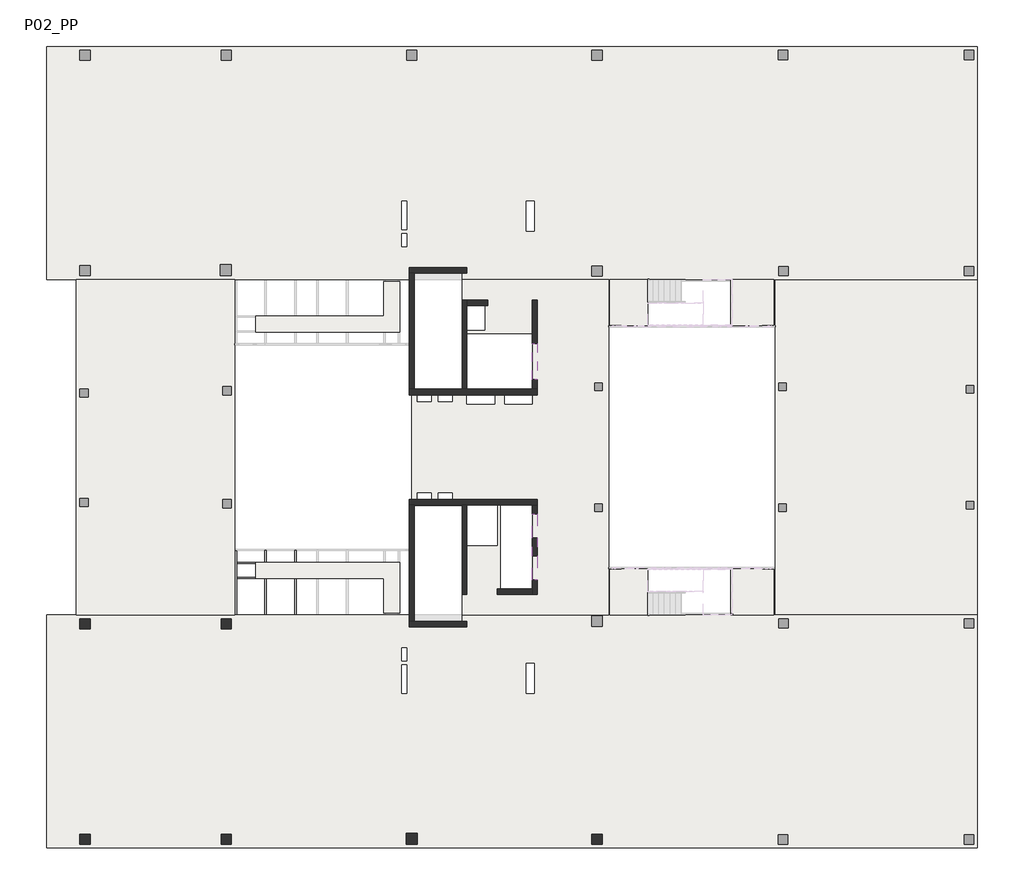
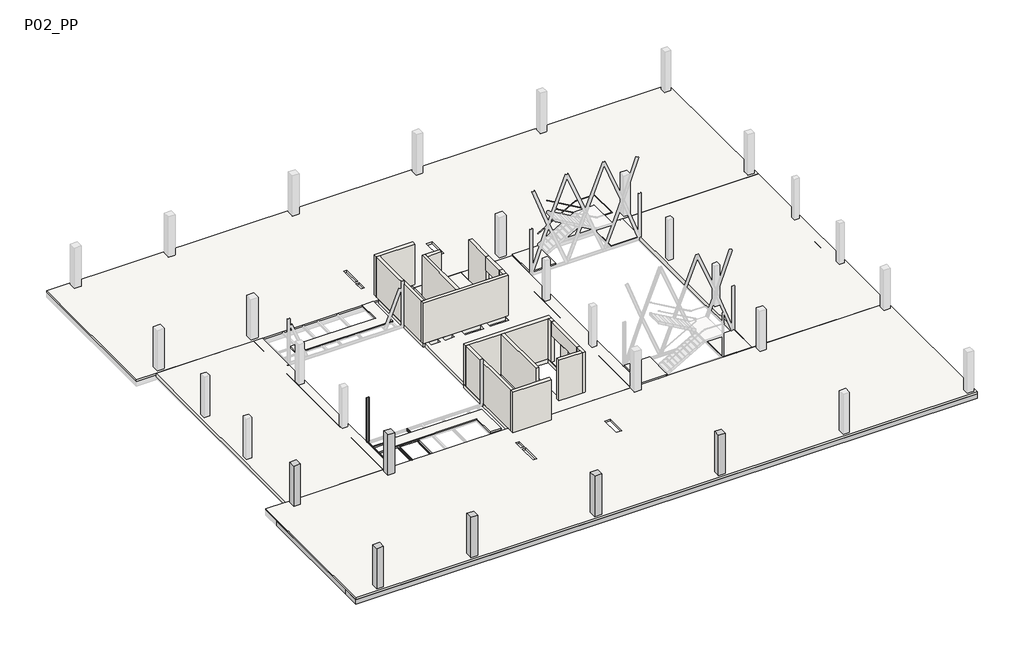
# One storey, part 1 of 7: 19 beams, 17 walls, 9 slabs, 7 columns.
"""IFC4 building model written with IfcOpenShell, lengths in millimetres."""

from ifc_helpers import new_model, si_unit, frame, origin, place, context, project, spatial, polyline, outline, extrude, faceted_brep, transform, mapped, element, save
from components import ub_universal_beams_ipe_160x82_5295c27c, ub_universal_beams_ipe_160x82_633517aa, upn120x55_2e91fe93, upn120x55_d7d90911, upn_200x75_f929c6c0

model = new_model("IFC4")

# Units and contexts
model_context = context("Model", 3, world=origin())
ifc_project = project(units=[si_unit("LENGTHUNIT", "METRE", prefix="MILLI")], contexts=[model_context])

# Site, building, storey
site = spatial("IfcSite", under=ifc_project)
building = spatial("IfcBuilding", under=site)
storey = spatial("IfcBuildingStorey", under=building, Name="P02_PP", Elevation=14910.0)

# Beams
placement = place(None, origin())
element("IfcBeam", 1, ObjectType="M_Concrete-Rectangular Beam : 1500 x 550mm", at=placement, inside=storey, context=model_context, shape_type="Brep", body=[
    faceted_brep([(-33190.2931093, -17110.5871866, 14360.0), (16958.7687297, -17110.5871866, 14360.0), (16958.7687297, -17110.5871866, 14760.0), (-33190.2931093, -17110.5871866, 14760.0), (-33190.2931093, -15610.5871866, 14360.0), (-32490.2931093, -15610.5871866, 14360.0), (-31216.2708024, -15610.5871866, 14360.0), (-30816.2708024, -15610.5871866, 14360.0), (-29549.6041367, -15610.5871866, 14360.0), (-29149.6041367, -15610.5871866, 14360.0), (-27882.9374731, -15610.5871866, 14360.0), (-27482.9374731, -15610.5871866, 14360.0), (-26216.2708089, -15610.5871866, 14360.0), (-25816.2708089, -15610.5871866, 14360.0), (-24549.6041453, -15610.5871866, 14360.0), (-24149.6041453, -15610.5871866, 14360.0), (-22882.9374805, -15610.5871866, 14360.0), (-22482.9374805, -15610.5871866, 14360.0), (-21216.2708168, -15610.5871866, 14360.0), (-20816.2708168, -15610.5871866, 14360.0), (-19549.6041539, -15610.5871866, 14360.0), (-19149.6041539, -15610.5871866, 14360.0), (-17882.9374898, -15610.5871866, 14360.0), (-17482.9374898, -15610.5871866, 14360.0), (-16216.2708252, -15610.5871866, 14360.0), (-15816.2708252, -15610.5871866, 14360.0), (-14549.604161, -15610.5871866, 14360.0), (-14149.604161, -15610.5871866, 14360.0), (-12882.9374977, -15610.5871866, 14360.0), (-12482.9374977, -15610.5871866, 14360.0), (-11216.2708336, -15610.5871866, 14360.0), (-10816.2708336, -15610.5871866, 14360.0), (-9549.6041702, -15610.5871866, 14360.0), (-9149.6041702, -15610.5871866, 14360.0), (-7882.9375051, -15610.5871866, 14360.0), (-7482.9375051, -15610.5871866, 14360.0), (-6216.2708415, -15610.5871866, 14360.0), (-5816.2708415, -15610.5871866, 14360.0), (-4549.6041777, -15610.5871866, 14360.0), (-4149.6041777, -15610.5871866, 14360.0), (-2882.9375136, -15610.5871866, 14360.0), (-2482.9375136, -15610.5871866, 14360.0), (-1216.2708502, -15610.5871866, 14360.0), (-816.2708502, -15610.5871866, 14360.0), (450.3958139, -15610.5871866, 14360.0), (850.3958139, -15610.5871866, 14360.0), (2117.0624776, -15610.5871866, 14360.0), (2517.0624776, -15610.5871866, 14360.0), (3783.7291418, -15610.5871866, 14360.0), (4183.7291418, -15610.5871866, 14360.0), (5450.3958055, -15610.5871866, 14360.0), (5850.3958055, -15610.5871866, 14360.0), (7117.0624701, -15610.5871866, 14360.0), (7517.0624701, -15610.5871866, 14360.0), (8783.7291339, -15610.5871866, 14360.0), (9183.7291339, -15610.5871866, 14360.0), (10450.3957976, -15610.5871866, 14360.0), (10850.3957976, -15610.5871866, 14360.0), (12117.0624618, -15610.5871866, 14360.0), (12517.0624618, -15610.5871866, 14360.0), (13783.7291255, -15610.5871866, 14360.0), (14183.7291255, -15610.5871866, 14360.0), (15458.7687297, -15610.5871866, 14360.0), (16958.7687297, -15610.5871866, 14360.0), (6759.6784212, -16910.58666, 14360.0), (6759.6784217, -16360.58666, 14360.0), (6209.6784217, -16360.5866595, 14360.0), (6209.6784212, -16910.5866595, 14360.0), (-3266.6368922, -16910.5866626, 14360.0), (-3266.6368921, -16310.5866626, 14360.0), (-3866.6368921, -16310.5866625, 14360.0), (-3866.6368922, -16910.5866625, 14360.0), (-13216.1844603, -16910.5866726, 14360.0), (-13216.1844595, -16310.5866726, 14360.0), (-13816.1844595, -16310.5866718, 14360.0), (-13816.1844603, -16910.5866718, 14360.0), (-23241.0442946, -16910.586383, 14360.0), (-23241.0442945, -16310.586383, 14360.0), (-23841.0442945, -16310.5863829, 14360.0), (-23841.0442946, -16910.5863829, 14360.0), (-30791.1796641, -16910.5871989, 14360.0), (-30791.1796617, -16310.5871989, 14360.0), (-31391.1796617, -16310.5871965, 14360.0), (-31391.1796641, -16910.5871965, 14360.0), (16758.7685866, -16910.5866546, 14360.0), (16758.7685867, -16360.5866546, 14360.0), (16208.7685867, -16360.5866545, 14360.0), (16208.7685866, -16910.5866545, 14360.0), (-33190.2931093, -15610.5871866, 14760.0), (-32490.2931093, -15610.5871866, 14760.0), (-31216.2708024, -15610.5871866, 14760.0), (-30816.2708024, -15610.5871866, 14760.0), (-29549.6041367, -15610.5871866, 14760.0), (-29149.6041367, -15610.5871866, 14760.0), (-27882.9374731, -15610.5871866, 14760.0), (-27482.9374731, -15610.5871866, 14760.0), (-26216.2708089, -15610.5871866, 14760.0), (-25816.2708089, -15610.5871866, 14760.0), (-24549.6041453, -15610.5871866, 14760.0), (-24149.6041453, -15610.5871866, 14760.0), (-22882.9374805, -15610.5871866, 14760.0), (-22482.9374805, -15610.5871866, 14760.0), (-21216.2708168, -15610.5871866, 14760.0), (-20816.2708168, -15610.5871866, 14760.0), (-19549.6041539, -15610.5871866, 14760.0), (-19149.6041539, -15610.5871866, 14760.0), (-17882.9374898, -15610.5871866, 14760.0), (-17482.9374898, -15610.5871866, 14760.0), (-16216.2708252, -15610.5871866, 14760.0), (-15816.2708252, -15610.5871866, 14760.0), (-14549.604161, -15610.5871866, 14760.0), (-14149.604161, -15610.5871866, 14760.0), (-12882.9374977, -15610.5871866, 14760.0), (-12482.9374977, -15610.5871866, 14760.0), (-11216.2708336, -15610.5871866, 14760.0), (-10816.2708336, -15610.5871866, 14760.0), (-9549.6041702, -15610.5871866, 14760.0), (-9149.6041702, -15610.5871866, 14760.0), (-7882.9375051, -15610.5871866, 14760.0), (-7482.9375051, -15610.5871866, 14760.0), (-6216.2708415, -15610.5871866, 14760.0), (-5816.2708415, -15610.5871866, 14760.0), (-4549.6041777, -15610.5871866, 14760.0), (-4149.6041777, -15610.5871866, 14760.0), (-2882.9375136, -15610.5871866, 14760.0), (-2482.9375136, -15610.5871866, 14760.0), (-1216.2708502, -15610.5871866, 14760.0), (-816.2708502, -15610.5871866, 14760.0), (450.3958139, -15610.5871866, 14760.0), (850.3958139, -15610.5871866, 14760.0), (2117.0624776, -15610.5871866, 14760.0), (2517.0624776, -15610.5871866, 14760.0), (3783.7291418, -15610.5871866, 14760.0), (4183.7291418, -15610.5871866, 14760.0), (5450.3958055, -15610.5871866, 14760.0), (5850.3958055, -15610.5871866, 14760.0), (7117.0624701, -15610.5871866, 14760.0), (7517.0624701, -15610.5871866, 14760.0), (8783.7291339, -15610.5871866, 14760.0), (9183.7291339, -15610.5871866, 14760.0), (10450.3957976, -15610.5871866, 14760.0), (10850.3957976, -15610.5871866, 14760.0), (12117.0624618, -15610.5871866, 14760.0), (12517.0624618, -15610.5871866, 14760.0), (13783.7291255, -15610.5871866, 14760.0), (14183.7291255, -15610.5871866, 14760.0), (15458.7687297, -15610.5871866, 14760.0), (16958.7687297, -15610.5871866, 14760.0), (6759.6784212, -16910.58666, 14610.0), (6759.6784217, -16360.58666, 14610.0), (6209.6784212, -16910.5866595, 14610.0), (6209.6784217, -16360.5866595, 14610.0), (-3266.6368922, -16910.5866626, 14610.0), (-3266.6368921, -16310.5866626, 14610.0), (-3866.6368922, -16910.5866625, 14610.0), (-3866.6368921, -16310.5866625, 14610.0), (-13216.1844603, -16910.5866726, 14610.0), (-13216.1844595, -16310.5866726, 14610.0), (-13816.1844603, -16910.5866718, 14610.0), (-13816.1844595, -16310.5866718, 14610.0), (-23241.0442946, -16910.586383, 14610.0), (-23241.0442945, -16310.586383, 14610.0), (-23841.0442946, -16910.5863829, 14610.0), (-23841.0442945, -16310.5863829, 14610.0), (-30791.1796641, -16910.5871989, 14610.0), (-30791.1796617, -16310.5871989, 14610.0), (-31391.1796641, -16910.5871965, 14610.0), (-31391.1796617, -16310.5871965, 14610.0), (16758.7685866, -16910.5866546, 14610.0), (16758.7685867, -16360.5866546, 14610.0), (16208.7685866, -16910.5866545, 14610.0), (16208.7685867, -16360.5866545, 14610.0)], [[[0, 1, 2, 3]], [[0, 4, 5, 6, 7, 8, 9, 10, 11, 12, 13, 14, 15, 16, 17, 18, 19, 20, 21, 22, 23, 24, 25, 26, 27, 28, 29, 30, 31, 32, 33, 34, 35, 36, 37, 38, 39, 40, 41, 42, 43, 44, 45, 46, 47, 48, 49, 50, 51, 52, 53, 54, 55, 56, 57, 58, 59, 60, 61, 62, 63, 1], [64, 65, 66, 67], [68, 69, 70, 71], [72, 73, 74, 75], [76, 77, 78, 79], [80, 81, 82, 83], [84, 85, 86, 87]], [[63, 62, 61, 60, 59, 58, 57, 56, 55, 54, 53, 52, 51, 50, 49, 48, 47, 46, 45, 44, 43, 42, 41, 40, 39, 38, 37, 36, 35, 34, 33, 32, 31, 30, 29, 28, 27, 26, 25, 24, 23, 22, 21, 20, 19, 18, 17, 16, 15, 14, 13, 12, 11, 10, 9, 8, 7, 6, 5, 4, 88, 89, 90, 91, 92, 93, 94, 95, 96, 97, 98, 99, 100, 101, 102, 103, 104, 105, 106, 107, 108, 109, 110, 111, 112, 113, 114, 115, 116, 117, 118, 119, 120, 121, 122, 123, 124, 125, 126, 127, 128, 129, 130, 131, 132, 133, 134, 135, 136, 137, 138, 139, 140, 141, 142, 143, 144, 145, 146, 147]], [[4, 0, 3, 88]], [[1, 63, 147, 2]], [[148, 149, 65, 64]], [[150, 148, 64, 67]], [[151, 150, 67, 66]], [[149, 151, 66, 65]], [[149, 148, 150, 151]], [[152, 153, 69, 68]], [[154, 152, 68, 71]], [[155, 154, 71, 70]], [[153, 155, 70, 69]], [[153, 152, 154, 155]], [[156, 157, 73, 72]], [[158, 156, 72, 75]], [[159, 158, 75, 74]], [[157, 159, 74, 73]], [[157, 156, 158, 159]], [[160, 161, 77, 76]], [[162, 160, 76, 79]], [[163, 162, 79, 78]], [[161, 163, 78, 77]], [[161, 160, 162, 163]], [[164, 165, 81, 80]], [[166, 164, 80, 83]], [[167, 166, 83, 82]], [[165, 167, 82, 81]], [[165, 164, 166, 167]], [[168, 169, 85, 84]], [[170, 168, 84, 87]], [[171, 170, 87, 86]], [[169, 171, 86, 85]], [[169, 168, 170, 171]], [[3, 2, 147, 146, 145, 144, 143, 142, 141, 140, 139, 138, 137, 136, 135, 134, 133, 132, 131, 130, 129, 128, 127, 126, 125, 124, 123, 122, 121, 120, 119, 118, 117, 116, 115, 114, 113, 112, 111, 110, 109, 108, 107, 106, 105, 104, 103, 102, 101, 100, 99, 98, 97, 96, 95, 94, 93, 92, 91, 90, 89, 88]]]),
])
element("IfcBeam", 2, ObjectType="M_Concrete-Rectangular Beam : 400 x 550mm", at=placement, inside=storey, context=model_context, shape_type="SweptSolid", body=[
    extrude(outline(polyline([(-30816.2708024, -15610.5871866), (-31216.2708024, -15610.5871866), (-31216.2708024, -6060.5861501), (-30816.2708024, -6060.5861501), (-30816.2708024, -15610.5871866)])), frame((0.0, 0.0, 14360.0), z_axis=(0.0, 0.0, 1.0), x_axis=(1.0, 0.0, 0.0)), (0.0, 0.0, 1.0), 400.0),
])
element("IfcBeam", 3, ObjectType="M_Concrete-Rectangular Beam : 400 x 550mm", at=placement, inside=storey, context=model_context, shape_type="SweptSolid", body=[
    extrude(outline(polyline([(-29149.6041367, -15610.5871866), (-29549.6041367, -15610.5871866), (-29549.6041367, -6060.5861501), (-29149.6041367, -6060.5861501), (-29149.6041367, -15610.5871866)])), frame((0.0, 0.0, 14360.0), z_axis=(0.0, 0.0, 1.0), x_axis=(1.0, 0.0, 0.0)), (0.0, 0.0, 1.0), 400.0),
])
element("IfcBeam", 4, ObjectType="M_Concrete-Rectangular Beam : 400 x 550mm", at=placement, inside=storey, context=model_context, shape_type="SweptSolid", body=[
    extrude(outline(polyline([(-27482.9374731, -15610.5871866), (-27882.9374731, -15610.5871866), (-27882.9374731, -6060.5861501), (-27482.9374731, -6060.5861501), (-27482.9374731, -15610.5871866)])), frame((0.0, 0.0, 14360.0), z_axis=(0.0, 0.0, 1.0), x_axis=(1.0, 0.0, 0.0)), (0.0, 0.0, 1.0), 400.0),
])
element("IfcBeam", 5, ObjectType="M_Concrete-Rectangular Beam : 400 x 550mm", at=placement, inside=storey, context=model_context, shape_type="SweptSolid", body=[
    extrude(outline(polyline([(-25816.2708089, -15610.5871866), (-26216.2708089, -15610.5871866), (-26216.2708089, -6060.5861501), (-25816.2708089, -6060.5861501), (-25816.2708089, -15610.5871866)])), frame((0.0, 0.0, 14360.0), z_axis=(0.0, 0.0, 1.0), x_axis=(1.0, 0.0, 0.0)), (0.0, 0.0, 1.0), 400.0),
])
element("IfcBeam", 6, ObjectType="M_Concrete-Rectangular Beam : 400 x 550mm", at=placement, inside=storey, context=model_context, shape_type="SweptSolid", body=[
    extrude(outline(polyline([(-24149.6041453, -15610.5871866), (-24549.6041453, -15610.5871866), (-24549.6041453, -6060.5861501), (-24149.6041453, -6060.5861501), (-24149.6041453, -15610.5871866)])), frame((0.0, 0.0, 14360.0), z_axis=(0.0, 0.0, 1.0), x_axis=(1.0, 0.0, 0.0)), (0.0, 0.0, 1.0), 400.0),
])
element("IfcBeam", 7, ObjectType="M_Concrete-Rectangular Beam : 400 x 550mm", at=placement, inside=storey, context=model_context, shape_type="SweptSolid", body=[
    extrude(outline(polyline([(-22482.9374805, -15610.5871866), (-22882.9374805, -15610.5871866), (-22882.9374805, -6060.5861501), (-22482.9374805, -6060.5861501), (-22482.9374805, -15610.5871866)])), frame((0.0, 0.0, 14360.0), z_axis=(0.0, 0.0, 1.0), x_axis=(1.0, 0.0, 0.0)), (0.0, 0.0, 1.0), 400.0),
])
element("IfcBeam", 8, ObjectType="M_Concrete-Rectangular Beam : 400 x 550mm", at=placement, inside=storey, context=model_context, shape_type="SweptSolid", body=[
    extrude(outline(polyline([(-20816.2708168, -15610.5871866), (-21216.2708168, -15610.5871866), (-21216.2708168, -6060.5861501), (-20816.2708168, -6060.5861501), (-20816.2708168, -15610.5871866)])), frame((0.0, 0.0, 14360.0), z_axis=(0.0, 0.0, 1.0), x_axis=(1.0, 0.0, 0.0)), (0.0, 0.0, 1.0), 400.0),
])
element("IfcBeam", 9, ObjectType="M_Concrete-Rectangular Beam : 400 x 550mm", at=placement, inside=storey, context=model_context, shape_type="SweptSolid", body=[
    extrude(outline(polyline([(-19149.6041539, -15610.5871866), (-19549.6041539, -15610.5871866), (-19549.6041539, -6060.5861501), (-19149.6041539, -6060.5861501), (-19149.6041539, -15610.5871866)])), frame((0.0, 0.0, 14360.0), z_axis=(0.0, 0.0, 1.0), x_axis=(1.0, 0.0, 0.0)), (0.0, 0.0, 1.0), 400.0),
])
element("IfcBeam", 10, ObjectType="M_Concrete-Rectangular Beam : 400 x 550mm", at=placement, inside=storey, context=model_context, shape_type="SweptSolid", body=[
    extrude(outline(polyline([(-17482.9374898, -15610.5871866), (-17882.9374898, -15610.5871866), (-17882.9374898, -6060.5861501), (-17482.9374898, -6060.5861501), (-17482.9374898, -15610.5871866)])), frame((0.0, 0.0, 14360.0), z_axis=(0.0, 0.0, 1.0), x_axis=(1.0, 0.0, 0.0)), (0.0, 0.0, 1.0), 400.0),
])
element("IfcBeam", 11, ObjectType="M_Concrete-Rectangular Beam : 400 x 550mm", at=placement, inside=storey, context=model_context, shape_type="SweptSolid", body=[
    extrude(outline(polyline([(-15816.2708252, -15610.5871866), (-16216.2708252, -15610.5871866), (-16216.2708252, -6060.5861501), (-15816.2708252, -6060.5861501), (-15816.2708252, -15610.5871866)])), frame((0.0, 0.0, 14360.0), z_axis=(0.0, 0.0, 1.0), x_axis=(1.0, 0.0, 0.0)), (0.0, 0.0, 1.0), 400.0),
])
element("IfcBeam", 12, ObjectType="M_Concrete-Rectangular Beam : 700 x 550mm", at=placement, inside=storey, context=model_context, shape_type="SweptSolid", body=[
    extrude(outline(polyline([(-32490.2931093, -15610.5871866), (-33190.2931093, -15610.5871866), (-33190.2931093, -6060.5861501), (-32490.2931093, -6060.5861501), (-32490.2931093, -15610.5871866)])), frame((0.0, 0.0, 14360.0), z_axis=(0.0, 0.0, 1.0), x_axis=(1.0, 0.0, 0.0)), (0.0, 0.0, 1.0), 400.0),
])
ub_universal_beams_ipe_160x82_shape = ub_universal_beams_ipe_160x82_5295c27c(model_context)
element("IfcBeam", 13, ObjectType="UB-Universal Beams : IPE 160x82", at=placement, inside=storey, context=model_context, shape_type="MappedRepresentation", body=[
    mapped(ub_universal_beams_ipe_160x82_shape, transform((-19790.4459314, -3192.6366464, 14830.0), x_axis=(0.0, 1.0, 0.0), y_axis=(-1.0, 0.0, 0.0), z_axis=(0.0, 0.0, 1.0))),
])
element("IfcBeam", 14, ObjectType="UB-Universal Beams : IPE 160x82", at=placement, inside=storey, context=model_context, shape_type="MappedRepresentation", body=[
    mapped(ub_universal_beams_ipe_160x82_shape, transform((-21390.4459306, -3192.636621, 14830.0), x_axis=(0.0, 1.0, 0.0), y_axis=(-1.0, 0.0, 0.0), z_axis=(0.0, 0.0, 1.0))),
])
ub_universal_beams_ipe_160x82_2_shape = ub_universal_beams_ipe_160x82_633517aa(model_context)
element("IfcBeam", 15, ObjectType="UB-Universal Beams : IPE 160x82", at=placement, inside=storey, context=model_context, shape_type="MappedRepresentation", body=[
    mapped(ub_universal_beams_ipe_160x82_2_shape, transform((-22991.1860553, -3192.6365957, 14830.0), x_axis=(0.0, 1.0, 0.0), y_axis=(-1.0, 0.0, 0.0), z_axis=(0.0, 0.0, 1.0))),
])
upn120x55_shape = upn120x55_2e91fe93(model_context)
element("IfcBeam", 16, ObjectType="M_MC Shapes : UPN120x55", at=placement, inside=storey, context=model_context, shape_type="MappedRepresentation", body=[
    mapped(upn120x55_shape, transform((-20590.445931, -2572.1872377, 14850.0), x_axis=(0.9999999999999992, -4.0441322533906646e-08, 0.0), y_axis=(4.0441322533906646e-08, 0.9999999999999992, 0.0), z_axis=(0.0, 0.0, 1.0))),
])
element("IfcBeam", 17, ObjectType="M_MC Shapes : UPN120x55", at=placement, inside=storey, context=model_context, shape_type="MappedRepresentation", body=[
    mapped(upn120x55_shape, transform((-20590.445931, -1772.1872411, 14850.0), x_axis=(0.9999999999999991, -4.319868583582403e-08, 0.0), y_axis=(4.319868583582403e-08, 0.9999999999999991, 0.0), z_axis=(0.0, 0.0, 1.0))),
])
upn120x55_2_shape = upn120x55_d7d90911(model_context)
element("IfcBeam", 18, ObjectType="M_MC Shapes : UPN120x55", at=placement, inside=storey, context=model_context, shape_type="MappedRepresentation", body=[
    mapped(upn120x55_2_shape, transform((-22165.4459321, -2572.187174, 14850.0), x_axis=(0.9999999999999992, -4.0441322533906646e-08, 0.0), y_axis=(4.0441322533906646e-08, 0.9999999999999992, 0.0), z_axis=(0.0, 0.0, 1.0))),
])
element("IfcBeam", 19, ObjectType="M_MC Shapes : UPN120x55", at=placement, inside=storey, context=model_context, shape_type="MappedRepresentation", body=[
    mapped(upn120x55_2_shape, transform((-22165.4459321, -1772.1871731, 14850.0), x_axis=(0.9999999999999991, -4.319868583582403e-08, 0.0), y_axis=(4.319868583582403e-08, 0.9999999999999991, 0.0), z_axis=(0.0, 0.0, 1.0))),
])

# Columns
element("IfcColumn", 20, ObjectType="Concrete-Rectangular-Column : Pilar_Rectangular-Formigo-550x550", at=placement, inside=storey, context=model_context, shape_type="Brep", body=[
    faceted_brep([(-3266.6336781, -16360.5863398, 14910.0), (-3266.6336782, -16910.5863398, 14910.0), (-3816.6336782, -16910.5863397, 14910.0), (-3816.6336781, -16360.5863397, 14910.0), (-3266.6336781, -16360.5863398, 18360.0), (-3266.6336782, -16910.5863398, 18360.0), (-3266.6336782, -16910.5863398, 18110.0), (-3266.6336781, -16360.5863398, 18110.0), (-3816.6336782, -16910.5863397, 18360.0), (-3816.6336782, -16910.5863397, 18110.0), (-3816.6336781, -16360.5863397, 18360.0), (-3816.6336781, -16360.5863397, 18110.0)], [[[0, 1, 2, 3]], [[4, 5, 6, 1, 0, 7]], [[5, 8, 9, 2, 1, 6]], [[8, 10, 11, 3, 2, 9]], [[10, 4, 7, 0, 3, 11]], [[4, 10, 8, 5]]]),
])
element("IfcColumn", 21, ObjectType="Concrete-Rectangular-Column : Pilar_Rectangular-Formigo-600x600", at=placement, inside=storey, context=model_context, shape_type="Brep", body=[
    faceted_brep([(-13216.1844595, -16310.5866726, 14910.0), (-13216.1844603, -16910.5866726, 14910.0), (-13816.1844603, -16910.5866718, 14910.0), (-13816.1844595, -16310.5866718, 14910.0), (-13216.1844595, -16310.5866726, 18360.0), (-13216.1844603, -16910.5866726, 18360.0), (-13216.1844603, -16910.5866726, 18110.0), (-13216.1844595, -16310.5866726, 18110.0), (-13816.1844603, -16910.5866718, 18360.0), (-13816.1844603, -16910.5866718, 18110.0), (-13816.1844595, -16310.5866718, 18360.0), (-13816.1844595, -16310.5866718, 18110.0)], [[[0, 1, 2, 3]], [[4, 5, 6, 1, 0, 7]], [[5, 8, 9, 2, 1, 6]], [[8, 10, 11, 3, 2, 9]], [[10, 4, 7, 0, 3, 11]], [[4, 10, 8, 5]]]),
])
element("IfcColumn", 22, ObjectType="Concrete-Rectangular-Column : Pilar_Rectangular-Formigo-550x550", at=placement, inside=storey, context=model_context, shape_type="Brep", body=[
    faceted_brep([(-23240.175054, -16360.5860682, 14910.0), (-23240.1750541, -16910.5860682, 14910.0), (-23790.1750541, -16910.5860681, 14910.0), (-23790.175054, -16360.5860681, 14910.0), (-23240.175054, -16360.5860682, 18360.0), (-23240.1750541, -16910.5860682, 18360.0), (-23240.1750541, -16910.5860682, 18110.0), (-23240.175054, -16360.5860682, 18110.0), (-23790.1750541, -16910.5860681, 18360.0), (-23790.1750541, -16910.5860681, 18110.0), (-23790.175054, -16360.5860681, 18360.0), (-23790.175054, -16360.5860681, 18110.0)], [[[0, 1, 2, 3]], [[4, 5, 6, 1, 0, 7]], [[5, 8, 9, 2, 1, 6]], [[8, 10, 11, 3, 2, 9]], [[10, 4, 7, 0, 3, 11]], [[4, 10, 8, 5]]]),
])
element("IfcColumn", 23, ObjectType="Concrete-Rectangular-Column : Pilar_Rectangular-Formigo-550x550", at=placement, inside=storey, context=model_context, shape_type="Brep", body=[
    faceted_brep([(-23241.1836357, -4760.5863897, 14910.0), (-23241.1836358, -5310.5863897, 14910.0), (-23791.1836358, -5310.5863896, 14910.0), (-23791.1836357, -4760.5863896, 14910.0), (-23241.1836357, -4760.5863897, 18360.0), (-23241.1836358, -5310.5863897, 18360.0), (-23241.1836358, -5310.5863897, 18110.0), (-23241.1836357, -4760.5863897, 18110.0), (-23791.1836358, -5310.5863896, 18360.0), (-23791.1836358, -5310.5863896, 18110.0), (-23791.1836357, -4760.5863896, 18360.0), (-23791.1836357, -4760.5863896, 18110.0)], [[[0, 1, 2, 3]], [[4, 5, 6, 1, 0, 7]], [[5, 8, 9, 2, 1, 6]], [[8, 10, 11, 3, 2, 9]], [[10, 4, 7, 0, 3, 11]], [[4, 10, 8, 5]]]),
])
element("IfcColumn", 24, ObjectType="Concrete-Rectangular-Column : Pilar_Rectangular-Formigo-550x550", at=placement, inside=storey, context=model_context, shape_type="Brep", body=[
    faceted_brep([(-30841.1764478, -16360.5868854, 14910.0), (-30841.1764478, -16910.5868854, 14910.0), (-31391.1764478, -16910.5868854, 14910.0), (-31391.1764478, -16360.5868854, 14910.0), (-30841.1764478, -16360.5868854, 18360.0), (-30841.1764478, -16910.5868854, 18360.0), (-30841.1764478, -16910.5868854, 18110.0), (-30841.1764478, -16360.5868854, 18110.0), (-31391.1764478, -16910.5868854, 18360.0), (-31391.1764478, -16910.5868854, 18110.0), (-31391.1764478, -16360.5868854, 18360.0), (-31391.1764478, -16360.5868854, 18110.0)], [[[0, 1, 2, 3]], [[4, 5, 6, 1, 0, 7]], [[5, 8, 9, 2, 1, 6]], [[8, 10, 11, 3, 2, 9]], [[10, 4, 7, 0, 3, 11]], [[4, 10, 8, 5]]]),
])
element("IfcColumn", 25, ObjectType="Concrete-Rectangular-Column : Pilar_Rectangular-Formigo-550x550", at=placement, inside=storey, context=model_context, shape_type="Brep", body=[
    faceted_brep([(-30841.2256052, -4760.5863916, 14910.0), (-30841.2256035, -5310.5863916, 14910.0), (-31391.2256035, -5310.5863933, 14910.0), (-31391.2256052, -4760.5863933, 14910.0), (-30841.2256052, -4760.5863916, 18360.0), (-30841.2256035, -5310.5863916, 18360.0), (-30841.2256035, -5310.5863916, 18110.0), (-30841.2256052, -4760.5863916, 18110.0), (-31391.2256035, -5310.5863933, 18360.0), (-31391.2256035, -5310.5863933, 18110.0), (-31391.2256052, -4760.5863933, 18360.0), (-31391.2256052, -4760.5863933, 18110.0)], [[[0, 1, 2, 3]], [[4, 5, 6, 1, 0, 7]], [[5, 8, 9, 2, 1, 6]], [[8, 10, 11, 3, 2, 9]], [[10, 4, 7, 0, 3, 11]], [[4, 10, 8, 5]]]),
])
upn_200x75_shape = upn_200x75_f929c6c0(model_context)
element("IfcColumn", 26, ObjectType="M_MC Shapes-Column : UPN 200x75", at=placement, inside=storey, context=model_context, shape_type="MappedRepresentation", body=[
    mapped(upn_200x75_shape, transform((-22940.3175214, -1036.9870429, 0.0), x_axis=(-3.122957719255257e-08, -0.9999999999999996, 0.0), y_axis=(0.9999999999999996, -3.122957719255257e-08, 0.0), z_axis=(0.0, 0.0, 1.0))),
])

# Slabs
element("IfcSlab", 27, ObjectType="Forjat_Llosa-Formigo-300", at=placement, inside=storey, context=model_context, shape_type="SweptSolid", body=[
    extrude(outline(polyline([(-23041.1819312, -4560.5856225), (-31591.2267916, -4560.5846583), (-31591.2267908, 13539.4149366), (-23041.1819308, 13539.4139725), (-23041.1819312, -4560.5856225)])), frame((0.0, 0.0, 14610.0), z_axis=(0.0, 0.0, 1.0), x_axis=(1.0, 0.0, 0.0)), (0.0, 0.0, 1.0), 300.0),
    extrude(outline(polyline([(-2913.637503, 13539.4134401), (-2913.6375057, -4560.5861616), (-10790.2146087, -4560.5861663), (-10790.2146087, 1364.8960692), (-13390.3216429, 1364.8960692), (-13390.3216429, -4560.5861678), (-13640.3216429, -4560.586168), (-13640.3216429, 1664.8960692), (-13515.3216429, 1664.8960692), (-13515.3216426, 7314.8960673), (-13640.3216429, 7314.8960673), (-13640.3216429, 13539.4134417), (-13390.3216429, 13539.4134417), (-13390.3216429, 7614.8960673), (-10790.2146087, 7614.8960673), (-10790.2146087, 13539.4134413), (-2913.637503, 13539.4134401)]), holes=[polyline([(-8915.3273673, -795.1004405), (-8915.3273673, 1364.8960692), (-10540.2146087, 1364.8960692), (-10540.2146087, -795.1004405), (-8915.3273673, -795.1004405)]), polyline([(-7015.32737, -3135.1012912), (-7015.32737, 1364.8960692), (-8715.3273692, 1364.8960692), (-8715.3273692, -3135.1012912), (-7015.32737, -3135.1012912)]), polyline([(-7015.3216444, 10594.8839421), (-10540.2146087, 10594.8839421), (-10540.2146087, 7614.8960673), (-7015.3216444, 7614.8960673), (-7015.3216444, 10594.8839421)]), polyline([(-9575.3241515, 12114.8934277), (-10540.2146087, 12114.8934277), (-10540.2146087, 10794.8973525), (-9575.3241515, 10794.8973525), (-9575.3241515, 12114.8934277)]), polyline([(-12465.3183759, 6964.8891848), (-12465.3183704, 7314.8960673), (-13215.3183723, 7314.8960673), (-13215.3183768, 6964.8891841), (-12465.3183759, 6964.8891848)]), polyline([(-12090.3183694, 6964.8891882), (-11340.3183722, 6964.8891882), (-11340.3183685, 7314.8960673), (-12090.3183704, 7314.8960673), (-12090.3183694, 6964.8891882)]), polyline([(-12465.317339, 2014.8973051), (-13215.3183744, 2014.8973051), (-13215.3183744, 1664.8968204), (-12465.317339, 1664.8968204), (-12465.317339, 2014.8973051)]), polyline([(-11340.3173363, 2014.8973051), (-12090.3183821, 2014.8973051), (-12090.3183821, 1664.8968204), (-11340.3173363, 1664.8968204), (-11340.3173363, 2014.8973051)]), polyline([(-9040.3216312, 7314.8929869), (-10540.3361965, 7314.8929869), (-10540.3361965, 6814.888132), (-9040.3216312, 6814.888132), (-9040.3216312, 7314.8929869)]), polyline([(-7015.3241584, 7314.892988), (-8515.3387237, 7314.892988), (-8515.3387237, 6814.888133), (-7015.3241584, 6814.888133), (-7015.3241584, 7314.892988)])]), frame((0.0, 0.0, 14610.0), z_axis=(0.0, 0.0, 1.0), x_axis=(1.0, 0.0, 0.0)), (0.0, 0.0, 1.0), 300.0),
])
element("IfcSlab", 28, ObjectType="Forjat_Llosa-Formigo-400", at=placement, inside=storey, context=model_context, shape_type="SweptSolid", body=[
    extrude(outline(polyline([(16958.7687242, 13539.4134388), (16958.7687242, -4560.5861502), (6058.8308521, -4560.5861502), (6058.8308521, 13539.4134388), (16958.7687242, 13539.4134388)])), frame((0.0, 0.0, 14510.0), z_axis=(0.0, 0.0, 1.0), x_axis=(1.0, 0.0, 0.0)), (0.0, 0.0, 1.0), 400.0),
])
element("IfcSlab", 29, ObjectType="Forjat_Llosa-Formigo-150", at=placement, inside=storey, context=model_context, shape_type="Brep", body=[
    faceted_brep([(-33190.2931069, 13539.4134446, 14760.0), (-33190.2931069, 15039.4134441, 14760.0), (-33190.2931069, 24589.4144807, 14760.0), (-33190.2931069, 26089.4134445, 14760.0), (16958.7655213, 26089.4134445, 14760.0), (16958.7655213, 13539.4134371, 14760.0), (-10790.2146087, 13539.4134413, 14760.0), (-10790.2146087, 13864.8960677, 14760.0), (-13390.3216429, 13864.8960677, 14760.0), (-13390.3216429, 13539.4134417, 14760.0), (-7355.3596943, 17755.5003122, 14760.0), (-7355.3596935, 16143.9281337, 14760.0), (-6905.3202486, 16143.9281335, 14760.0), (-6905.3202496, 17755.5003116, 14760.0), (-13795.316559, 16015.6292353, 14760.0), (-14045.3165543, 16015.6292358, 14760.0), (-14045.3165545, 15315.6292377, 14760.0), (-13795.3165589, 15315.629238, 14760.0), (-13795.3165592, 17754.0479176, 14760.0), (-14045.3165588, 17754.0479187, 14760.0), (-14045.3165585, 16215.6292373, 14760.0), (-13795.316559, 16215.629237, 14760.0), (-33190.2931069, 26089.4134445, 14910.0), (-33190.2931069, 13539.4134446, 14910.0), (-31591.2267916, 13539.4134444, 14910.0), (-30891.2267916, 13539.4134443, 14910.0), (-23741.1819308, 13539.4134432, 14910.0), (-23041.1819308, 13539.4134431, 14910.0), (-13390.3216429, 13539.4134417, 14910.0), (-13390.3216429, 13864.8960677, 14910.0), (-10790.2146087, 13864.8960677, 14910.0), (-10790.2146087, 13539.4134413, 14910.0), (-7015.3241677, 13539.4134407, 14910.0), (-6715.3241677, 13539.4134407, 14910.0), (-3763.6343046, 13539.4134402, 14910.0), (-2913.6343046, 13539.4134401, 14910.0), (6058.8308521, 13539.4134388, 14910.0), (6758.8308521, 13539.4134387, 14910.0), (16258.7687242, 13539.4134372, 14910.0), (16958.7655213, 13539.4134371, 14910.0), (16958.7655213, 26089.4134445, 14910.0), (-7355.3596935, 16143.9281337, 14910.0), (-7355.3596943, 17755.5003122, 14910.0), (-6905.3202496, 17755.5003116, 14910.0), (-6905.3202486, 16143.9281335, 14910.0), (-14045.3165543, 16015.6292358, 14910.0), (-13795.316559, 16015.6292353, 14910.0), (-13795.3165589, 15315.629238, 14910.0), (-14045.3165545, 15315.6292377, 14910.0), (-14045.3165588, 17754.0479187, 14910.0), (-13795.3165592, 17754.0479176, 14910.0), (-13795.316559, 16215.629237, 14910.0), (-14045.3165585, 16215.6292373, 14910.0)], [[[0, 1, 2, 3, 4, 5, 6, 7, 8, 9], [10, 11, 12, 13], [14, 15, 16, 17], [18, 19, 20, 21]], [[22, 23, 24, 25, 26, 27, 28, 29, 30, 31, 32, 33, 34, 35, 36, 37, 38, 39, 40], [41, 42, 43, 44], [45, 46, 47, 48], [49, 50, 51, 52]], [[3, 2, 1, 0, 23, 22]], [[4, 3, 22, 40]], [[5, 39, 38, 37, 36, 35, 34, 33, 32, 31, 6]], [[23, 0, 9, 28, 27, 26, 25, 24]], [[5, 4, 40, 39]], [[7, 30, 29, 8]], [[8, 29, 28, 9]], [[30, 7, 6, 31]], [[10, 42, 41, 11]], [[11, 41, 44, 12]], [[12, 44, 43, 13]], [[42, 10, 13, 43]], [[14, 46, 45, 15]], [[15, 45, 48, 16]], [[16, 48, 47, 17]], [[46, 14, 17, 47]], [[18, 50, 49, 19]], [[19, 49, 52, 20]], [[20, 52, 51, 21]], [[50, 18, 21, 51]]]),
    faceted_brep([(-33190.2931093, -17110.587189, 14760.0), (-33190.2931093, -15610.5871866, 14760.0), (-33190.2931093, -6060.5861501, 14760.0), (-33190.2931093, -4560.5861796, 14760.0), (-13390.3216429, -4560.5861678, 14760.0), (-13390.3216429, -4885.1039312, 14760.0), (-10790.2146087, -4885.1039312, 14760.0), (-10790.2146087, -4560.5861663, 14760.0), (15458.7687297, -4560.5861507, 14760.0), (16958.7655213, -4560.5861498, 14760.0), (16958.7655213, -17110.587189, 14760.0), (-7355.3596943, -8775.7081757, 14760.0), (-6905.3202496, -8775.7081751, 14760.0), (-6905.3202486, -7164.135997, 14760.0), (-7355.3596935, -7164.1359972, 14760.0), (-13795.316559, -7035.8370988, 14760.0), (-13795.3165589, -6335.8371015, 14760.0), (-14045.3165545, -6335.8371012, 14760.0), (-14045.3165543, -7035.8370994, 14760.0), (-13795.3165592, -8774.2557811, 14760.0), (-13795.316559, -7235.8371005, 14760.0), (-14045.3165585, -7235.8371008, 14760.0), (-14045.3165588, -8774.2557822, 14760.0), (-33190.2931093, -4560.5861796, 14910.0), (-33190.2931093, -17110.587189, 14910.0), (16958.7655213, -17110.587189, 14910.0), (16958.7655213, -4560.5861498, 14910.0), (16258.7687242, -4560.5861502, 14910.0), (6758.8308521, -4560.5861559, 14910.0), (6058.8308521, -4560.5861563, 14910.0), (-2913.6343046, -4560.5861616, 14910.0), (-3763.6343046, -4560.5861621, 14910.0), (-6715.3241677, -4560.5861639, 14910.0), (-7015.3241677, -4560.586164, 14910.0), (-10790.2146087, -4560.5861663, 14910.0), (-10790.2146087, -4885.1039312, 14910.0), (-13390.3216429, -4885.1039312, 14910.0), (-13390.3216429, -4560.5861678, 14910.0), (-23041.1819308, -4560.5861736, 14910.0), (-23741.1819308, -4560.586174, 14910.0), (-30891.2267916, -4560.5861782, 14910.0), (-31591.2267916, -4560.5861786, 14910.0), (-6905.3202496, -8775.7081751, 14910.0), (-7355.3596943, -8775.7081757, 14910.0), (-7355.3596935, -7164.1359972, 14910.0), (-6905.3202486, -7164.135997, 14910.0), (-13795.3165589, -6335.8371015, 14910.0), (-13795.316559, -7035.8370988, 14910.0), (-14045.3165543, -7035.8370994, 14910.0), (-14045.3165545, -6335.8371012, 14910.0), (-13795.316559, -7235.8371005, 14910.0), (-13795.3165592, -8774.2557811, 14910.0), (-14045.3165588, -8774.2557822, 14910.0), (-14045.3165585, -7235.8371008, 14910.0)], [[[0, 1, 2, 3, 4, 5, 6, 7, 8, 9, 10], [11, 12, 13, 14], [15, 16, 17, 18], [19, 20, 21, 22]], [[23, 24, 25, 26, 27, 28, 29, 30, 31, 32, 33, 34, 35, 36, 37, 38, 39, 40, 41], [42, 43, 44, 45], [46, 47, 48, 49], [50, 51, 52, 53]], [[3, 2, 1, 0, 24, 23]], [[10, 9, 26, 25]], [[0, 10, 25, 24]], [[3, 23, 41, 40, 39, 38, 37, 4]], [[26, 9, 8, 7, 34, 33, 32, 31, 30, 29, 28, 27]], [[6, 35, 34, 7]], [[36, 5, 4, 37]], [[35, 6, 5, 36]], [[11, 43, 42, 12]], [[12, 42, 45, 13]], [[13, 45, 44, 14]], [[43, 11, 14, 44]], [[15, 47, 46, 16]], [[16, 46, 49, 17]], [[17, 49, 48, 18]], [[47, 15, 18, 48]], [[19, 51, 50, 20]], [[20, 50, 53, 21]], [[21, 53, 52, 22]], [[51, 19, 22, 52]]]),
])
element("IfcSlab", 30, ObjectType="Forjat_Llosa-Relliga-100", at=placement, inside=storey, context=model_context, shape_type="SweptSolid", body=[
    extrude(outline(polyline([(-21915.4459309, -2583.0874625), (-21915.4459314, -1728.0871839), (-14149.4459331, -1728.0871839), (-14149.4459331, -4439.621344), (-15031.4459326, -4439.621344), (-15031.4459326, -2583.0874625), (-21915.4459309, -2583.0874625)])), frame((0.0, 0.0, 14910.0), z_axis=(0.0, 0.0, 1.0), x_axis=(1.0, 0.0, 0.0)), (0.0, 0.0, 1.0), 100.0),
])
element("IfcSlab", 31, ObjectType="Forjat_Llosa-Xapa-100", at=placement, inside=storey, context=model_context, shape_type="SweptSolid", body=[
    extrude(outline(polyline([(-801.4958562, -2074.8320071), (-801.4958562, -4559.6213034), (-2861.4958562, -4559.6213037), (-2861.4958562, -2074.8320713), (-801.4958562, -2074.8320071)])), frame((0.0, 0.0, 14910.0), z_axis=(0.0, 0.0, 1.0), x_axis=(1.0, 0.0, 0.0)), (0.0, 0.0, 1.0), 100.0),
])
element("IfcSlab", 32, ObjectType="Forjat_Llosa-Relliga-100", at=placement, inside=storey, context=model_context, shape_type="SweptSolid", body=[
    extrude(outline(polyline([(-21915.4459309, 11562.8793206), (-15031.4459326, 11562.8793206), (-15031.4459326, 13419.4132021), (-14149.4459331, 13419.4132021), (-14149.4459331, 10707.879042), (-21915.4459314, 10707.879042), (-21915.4459309, 11562.8793206)])), frame((0.0, 0.0, 14910.0), z_axis=(0.0, 0.0, 1.0), x_axis=(1.0, 0.0, 0.0)), (0.0, 0.0, 1.0), 100.0),
])
element("IfcSlab", 33, ObjectType="Forjat_Llosa-Relliga-30", at=placement, inside=storey, context=model_context, shape_type="SweptSolid", body=[
    extrude(outline(polyline([(5988.4982336, -4559.6213024), (3664.2873994, -4559.6213028), (3664.2873994, -2074.8318679), (5988.4982342, -2074.8317954), (5988.4982336, -4559.6213024)])), frame((0.0, 0.0, 14910.0), z_axis=(0.0, 0.0, 1.0), x_axis=(1.0, 0.0, 0.0)), (0.0, 0.0, 1.0), 30.0),
])
element("IfcSlab", 34, ObjectType="Forjat_Llosa-Relliga-30", at=placement, inside=storey, context=model_context, shape_type="SweptSolid", body=[
    extrude(outline(polyline([(5988.4982336, 13539.4134389), (5988.4982342, 11054.6239319), (3664.2873994, 11054.6240044), (3664.2873994, 13539.4134392), (5988.4982336, 13539.4134389)])), frame((0.0, 0.0, 14910.0), z_axis=(0.0, 0.0, 1.0), x_axis=(1.0, 0.0, 0.0)), (0.0, 0.0, 1.0), 30.0),
])
element("IfcSlab", 35, ObjectType="Forjat_Llosa-Xapa-100", at=placement, inside=storey, context=model_context, shape_type="SweptSolid", body=[
    extrude(outline(polyline([(-801.4958562, 11054.6241436), (-2861.4958562, 11054.6242078), (-2861.4958562, 13539.4134402), (-801.4958562, 13539.4134399), (-801.4958562, 11054.6241436)])), frame((0.0, 0.0, 14910.0), z_axis=(0.0, 0.0, 1.0), x_axis=(1.0, 0.0, 0.0)), (0.0, 0.0, 1.0), 100.0),
])

# Walls
element("IfcWall", 36, ObjectType="0_Muro Concreto_250", at=placement, inside=storey, context=model_context, shape_type="Brep", body=[
    faceted_brep([(-13640.3216429, 13864.8960687, 14910.0), (-13640.3216429, 7614.8960673, 14910.0), (-13640.3216429, 7614.8960673, 18360.0), (-13640.3216429, 13539.4134441, 18360.0), (-13640.3216429, 13864.8960687, 18360.0), (-13390.3216429, 13864.8960687, 14910.0), (-13390.3216429, 13864.8960687, 18110.0), (-13390.3216429, 13864.8960687, 18360.0), (-13390.3216429, 13539.4134441, 18360.0), (-13390.3216429, 7614.8960673, 18360.0), (-13390.3216429, 7614.8960673, 14910.0)], [[[0, 1, 2, 3, 4]], [[5, 6, 7, 8, 9, 10]], [[1, 0, 5, 10]], [[4, 3, 2, 9, 8, 7]], [[0, 4, 7, 6, 5]], [[2, 1, 10, 9]]]),
])
element("IfcWall", 37, ObjectType="0_Muro Concreto_250", at=placement, inside=storey, context=model_context, shape_type="Brep", body=[
    faceted_brep([(-10790.2146087, 12414.8934136, 14910.0), (-10790.2146087, 7614.8960673, 14910.0), (-10790.2146087, 7614.8960673, 18360.0), (-10790.2146087, 12414.8934136, 18360.0), (-10540.2146087, 12414.8934136, 14910.0), (-10540.2146087, 12414.8934136, 18360.0), (-10540.2146087, 12114.8934136, 18360.0), (-10540.2146087, 7614.8960673, 18360.0), (-10540.2146087, 7614.8960673, 14910.0), (-10540.2146087, 12114.8934136, 14910.0)], [[[0, 1, 2, 3]], [[4, 5, 6, 7, 8, 9]], [[1, 0, 4, 9, 8]], [[3, 2, 7, 6, 5]], [[0, 3, 5, 4]], [[2, 1, 8, 7]]]),
])
element("IfcWall", 38, ObjectType="0_Muro Concreto_250", at=placement, inside=storey, context=model_context, shape_type="Brep", body=[
    faceted_brep([(-13390.3216429, -4885.1039323, 14910.0), (-13390.3216429, 1364.8960692, 14910.0), (-13390.3216429, 1364.8960692, 18360.0), (-13390.3216429, -4610.5861498, 18360.0), (-13390.3216429, -4885.1039323, 18360.0), (-13390.3216429, -4885.1039323, 18110.0), (-13640.3216429, -4885.1039323, 14910.0), (-13640.3216429, -4885.1039323, 18360.0), (-13640.3216429, -4610.5861498, 18360.0), (-13640.3216429, 1364.8960692, 18360.0), (-13640.3216429, 1364.8960692, 14910.0)], [[[0, 1, 2, 3, 4, 5]], [[6, 7, 8, 9, 10]], [[1, 0, 6, 10]], [[4, 3, 2, 9, 8, 7]], [[0, 5, 4, 7, 6]], [[2, 1, 10, 9]]]),
])
element("IfcWall", 39, ObjectType="0_Muro Concreto_250", at=placement, inside=storey, context=model_context, shape_type="SweptSolid", body=[
    extrude(outline(polyline([(-10540.2146087, 1364.8960692), (-10540.2146087, -3435.1012772), (-10790.2146087, -3435.1012772), (-10790.2146087, 1364.8960692), (-10540.2146087, 1364.8960692)])), frame((0.0, 0.0, 14910.0), z_axis=(0.0, 0.0, 1.0), x_axis=(1.0, 0.0, 0.0)), (0.0, 0.0, 1.0), 3450.0),
])
element("IfcWall", 40, ObjectType="0_Muro Concreto_250", at=placement, inside=storey, context=model_context, shape_type="Brep", body=[
    faceted_brep([(-7015.3215886, 12414.8934351, 14910.0), (-7015.3215909, 10084.2914836, 14910.0), (-7015.3215909, 10084.2914836, 17210.0), (-7015.3215909, 10084.2914836, 18360.0), (-7015.3215886, 12414.8934351, 18360.0), (-6765.3215886, 12414.8934349, 14910.0), (-6765.3215886, 12414.8934349, 18360.0), (-6765.3215909, 10084.2914833, 18360.0), (-6765.3215909, 10084.2914833, 17210.0), (-6765.3215909, 10084.2914833, 14910.0)], [[[0, 1, 2, 3, 4]], [[5, 6, 7, 8, 9]], [[1, 0, 5, 9]], [[3, 2, 1, 9, 8, 7]], [[4, 3, 7, 6]], [[0, 4, 6, 5]]]),
])
element("IfcWall", 41, ObjectType="0_Muro Concreto_250", at=placement, inside=storey, context=model_context, shape_type="SweptSolid", body=[
    extrude(outline(polyline([(-7015.3216444, 7614.8960673), (-7015.3216444, 8144.2911718), (-6765.3216444, 8144.2911718), (-6765.3216444, 7614.8960673), (-7015.3216444, 7614.8960673)])), frame((0.0, 0.0, 14910.0), z_axis=(0.0, 0.0, 1.0), x_axis=(1.0, 0.0, 0.0)), (0.0, 0.0, 1.0), 3450.0),
])
element("IfcWall", 42, ObjectType="0_Muro Concreto_250", at=placement, inside=storey, context=model_context, shape_type="SweptSolid", body=[
    extrude(outline(polyline([(-6765.3247837, -405.0894087), (-6765.3247837, -1365.1031796), (-7015.3247837, -1365.1031796), (-7015.3247837, -405.0894087), (-6765.3247837, -405.0894087)])), frame((0.0, 0.0, 14910.0), z_axis=(0.0, 0.0, 1.0), x_axis=(1.0, 0.0, 0.0)), (0.0, 0.0, 1.0), 2300.0),
])
element("IfcWall", 43, ObjectType="0_Muro Concreto_250", at=placement, inside=storey, context=model_context, shape_type="SweptSolid", body=[
    extrude(outline(polyline([(-6765.3216444, 1364.8960692), (-6765.3247835, 894.9105912), (-7015.3247835, 894.912261), (-7015.3216444, 1364.897739), (-6765.3216444, 1364.8960692)])), frame((0.0, 0.0, 14910.0), z_axis=(0.0, 0.0, 1.0), x_axis=(1.0, 0.0, 0.0)), (0.0, 0.0, 1.0), 3450.0),
])
element("IfcWall", 44, ObjectType="0_Muro Concreto_250", at=placement, inside=storey, context=model_context, shape_type="Brep", body=[
    faceted_brep([(-6765.3247845, -3435.1012772, 14910.0), (-6765.3247845, -2665.1031808, 14910.0), (-6765.3247845, -2665.1031808, 17210.0), (-6765.3247845, -2665.1031808, 18360.0), (-6765.3247845, -3435.1012772, 18360.0), (-7015.3247845, -3435.1012772, 14910.0), (-7015.3247845, -3435.1012772, 18360.0), (-7015.3247845, -3135.1012772, 18360.0), (-7015.3247845, -2665.1031808, 18360.0), (-7015.3247845, -2665.1031808, 17210.0), (-7015.3247845, -2665.1031808, 14910.0), (-7015.3247845, -3135.1012772, 14910.0)], [[[0, 1, 2, 3, 4]], [[5, 6, 7, 8, 9, 10, 11]], [[1, 0, 5, 11, 10]], [[3, 2, 1, 10, 9, 8]], [[4, 3, 8, 7, 6]], [[0, 4, 6, 5]]]),
])
element("IfcWall", 45, ObjectType="0_Muro Concreto_250", at=placement, inside=storey, context=model_context, shape_type="Brep", body=[
    faceted_brep([(-6765.3247835, -2665.1031808, 17210.0), (-6765.3247835, -1365.1031796, 17210.0), (-6765.3247835, -405.0894087, 17210.0), (-6765.3247835, 894.9114261, 17210.0), (-6765.3247835, 894.9114261, 18360.0), (-6765.3247835, -2665.1031808, 18360.0), (-7015.3247835, -2665.1031808, 17210.0), (-7015.3247835, -2665.1031808, 18360.0), (-7015.3247835, 894.9114261, 18360.0), (-7015.3247835, 894.9114261, 17210.0), (-7015.3247835, -405.0894087, 17210.0), (-7015.3247835, -1365.1031796, 17210.0)], [[[0, 1, 2, 3, 4, 5]], [[6, 7, 8, 9, 10, 11]], [[3, 2, 1, 0, 6, 11, 10, 9]], [[4, 3, 9, 8]], [[5, 4, 8, 7]], [[0, 5, 7, 6]]]),
])
element("IfcWall", 46, ObjectType="0_Muro Concreto_250", at=placement, inside=storey, context=model_context, shape_type="SweptSolid", body=[
    extrude(outline(polyline([(-7015.3216444, 8144.2911719), (-7015.3216444, 10084.2914835), (-6765.3216444, 10084.2914835), (-6765.3216444, 8144.2911719), (-7015.3216444, 8144.2911719)])), frame((0.0, 0.0, 17210.0), z_axis=(0.0, 0.0, 1.0), x_axis=(1.0, 0.0, 0.0)), (0.0, 0.0, 1.0), 1150.0),
])
element("IfcWall", 47, ObjectType="0_Muro Concreto_300", at=placement, inside=storey, context=model_context, shape_type="Brep", body=[
    faceted_brep([(-6768.0437821, 7614.8960673, 14910.0), (-10540.2146087, 7614.8960673, 14910.0), (-10790.2146087, 7614.8960673, 14910.0), (-13390.3216429, 7614.8960673, 14910.0), (-13640.3216429, 7614.8960673, 14910.0), (-13640.3216429, 7614.8960673, 18360.0), (-13390.3216429, 7614.8960673, 18360.0), (-10790.2146087, 7614.8960673, 18360.0), (-10540.2146087, 7614.8960673, 18360.0), (-6768.0437821, 7614.8960673, 18360.0), (-6768.0437821, 7314.8960673, 14910.0), (-6768.0437821, 7314.8960673, 18360.0), (-13640.3216429, 7314.8960673, 18360.0), (-13640.3216429, 7314.8960673, 14910.0)], [[[0, 1, 2, 3, 4, 5, 6, 7, 8, 9]], [[10, 11, 12, 13]], [[4, 3, 2, 1, 0, 10, 13]], [[9, 8, 7, 6, 5, 12, 11]], [[0, 9, 11, 10]], [[5, 4, 13, 12]]]),
])
element("IfcWall", 48, ObjectType="0_Muro Concreto_300", at=placement, inside=storey, context=model_context, shape_type="Brep", body=[
    faceted_brep([(-10540.3248355, 14164.8960687, 14910.0), (-13640.3216429, 14164.8960687, 14910.0), (-13640.3216429, 14164.8960687, 18110.0), (-13640.3216429, 14164.8960687, 18360.0), (-10540.3248355, 14164.8960687, 18360.0), (-10540.3248355, 14164.8960687, 18110.0), (-10540.3248355, 13864.8960687, 14910.0), (-10540.3248355, 13864.8960687, 18110.0), (-10540.3248355, 13864.8960687, 18360.0), (-13390.3216429, 13864.8960687, 18360.0), (-13640.3216429, 13864.8960687, 18360.0), (-13640.3216429, 13864.8960687, 14910.0), (-13390.3216429, 13864.8960687, 14910.0)], [[[0, 1, 2, 3, 4, 5]], [[6, 7, 8, 9, 10, 11, 12]], [[1, 0, 6, 12, 11]], [[4, 3, 10, 9, 8]], [[0, 5, 4, 8, 7, 6]], [[3, 2, 1, 11, 10]]]),
])
element("IfcWall", 49, ObjectType="0_Muro Concreto_300", at=placement, inside=storey, context=model_context, shape_type="SweptSolid", body=[
    extrude(outline(polyline([(-9415.5635412, 12114.8934136), (-10540.2146087, 12114.8934136), (-10540.2146087, 12414.8934136), (-9415.5635412, 12414.8934136), (-9415.5635412, 12114.8934136)])), frame((0.0, 0.0, 14910.0), z_axis=(0.0, 0.0, 1.0), x_axis=(1.0, 0.0, 0.0)), (0.0, 0.0, 1.0), 3450.0),
])
element("IfcWall", 50, ObjectType="0_Muro Concreto_300", at=placement, inside=storey, context=model_context, shape_type="Brep", body=[
    faceted_brep([(-6768.0437821, 1664.8960692, 14910.0), (-13640.3216429, 1664.8960692, 14910.0), (-13640.3216429, 1664.8960692, 18360.0), (-6768.0437821, 1664.8960692, 18360.0), (-6768.0437821, 1364.8960692, 14910.0), (-6768.0437821, 1364.8960692, 18360.0), (-10540.2146087, 1364.8960692, 18360.0), (-10790.2146087, 1364.8960692, 18360.0), (-13390.3216429, 1364.8960692, 18360.0), (-13640.3216429, 1364.8960692, 18360.0), (-13640.3216429, 1364.8960692, 14910.0), (-13390.3216429, 1364.8960692, 14910.0), (-10790.2146087, 1364.8960692, 14910.0), (-10540.2146087, 1364.8960692, 14910.0)], [[[0, 1, 2, 3]], [[4, 5, 6, 7, 8, 9, 10, 11, 12, 13]], [[1, 0, 4, 13, 12, 11, 10]], [[3, 2, 9, 8, 7, 6, 5]], [[0, 3, 5, 4]], [[2, 1, 10, 9]]]),
])
element("IfcWall", 51, ObjectType="0_Muro Concreto_300", at=placement, inside=storey, context=model_context, shape_type="Brep", body=[
    faceted_brep([(-10540.3248425, -4885.1039323, 14910.0), (-13390.3216429, -4885.1039323, 14910.0), (-13640.3216429, -4885.1039323, 14910.0), (-13640.3216429, -4885.1039323, 18360.0), (-13390.3216429, -4885.1039323, 18360.0), (-10540.3248425, -4885.1039323, 18360.0), (-10540.3248425, -4885.1039323, 18110.0), (-10540.3248425, -5185.1039323, 14910.0), (-10540.3248425, -5185.1039323, 18110.0), (-10540.3248425, -5185.1039323, 18360.0), (-13640.3216429, -5185.1039323, 18360.0), (-13640.3216429, -5185.1039323, 18110.0), (-13640.3216429, -5185.1039323, 14910.0)], [[[0, 1, 2, 3, 4, 5, 6]], [[7, 8, 9, 10, 11, 12]], [[2, 1, 0, 7, 12]], [[5, 4, 3, 10, 9]], [[0, 6, 5, 9, 8, 7]], [[3, 2, 12, 11, 10]]]),
])
element("IfcWall", 52, ObjectType="0_Muro Concreto_300", at=placement, inside=storey, context=model_context, shape_type="SweptSolid", body=[
    extrude(outline(polyline([(-7015.3247845, -3435.1012772), (-8915.3273666, -3435.1012772), (-8915.3273666, -3135.1012772), (-7015.3247845, -3135.1012772), (-7015.3247845, -3435.1012772)])), frame((0.0, 0.0, 14910.0), z_axis=(0.0, 0.0, 1.0), x_axis=(1.0, 0.0, 0.0)), (0.0, 0.0, 1.0), 3450.0),
])

save(model, "model.ifc")
